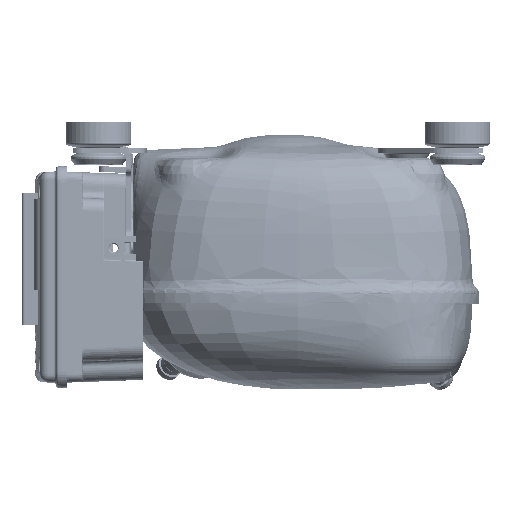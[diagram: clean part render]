
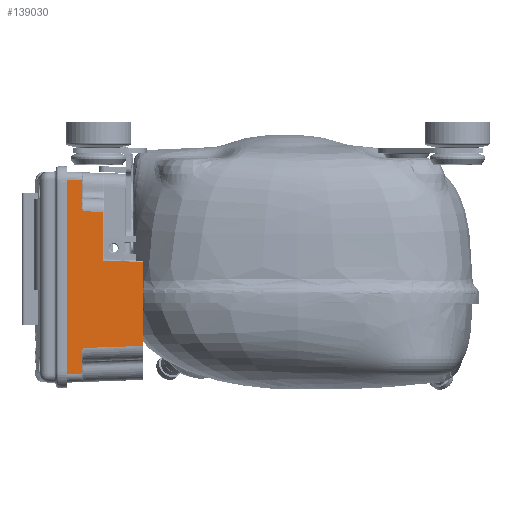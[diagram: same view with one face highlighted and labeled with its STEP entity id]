
A CAD part, top view. The second image highlights one B-rep face of the part: STEP entity #139030.
In plain terms, the highlighted planar face has unit normal (0.035, 0, 0.999) as drawn and (0.999, -0.035, 0) by its records, which use the part's own axes.
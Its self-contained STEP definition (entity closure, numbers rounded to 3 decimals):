
#97609=DIRECTION('',(0.,0.,-1.));
#97610=VECTOR('',#97609,31.822);
#97611=CARTESIAN_POINT('',(45.922,-4.855,
49.135));
#97612=LINE('',#97611,#97610);
#97810=DIRECTION('',(0.,0.,1.));
#97811=VECTOR('',#97810,73.844);
#97812=CARTESIAN_POINT('',(46.92,23.71,
-13.922));
#97813=LINE('',#97812,#97811);
#97818=DIRECTION('',(0.035,0.999,0.035));
#97819=VECTOR('',#97818,22.593);
#97820=CARTESIAN_POINT('',(45.922,-4.855,
49.135));
#97821=LINE('',#97820,#97819);
#97822=DIRECTION('',(0.035,0.999,0.035));
#97823=VECTOR('',#97822,5.524);
#97824=CARTESIAN_POINT('',(46.727,18.193,59.729));
#97825=LINE('',#97824,#97823);
#97826=DIRECTION('',(-0.035,-0.999,0.035));
#97827=VECTOR('',#97826,5.524);
#97828=CARTESIAN_POINT('',(46.92,23.71,
-13.922));
#97829=LINE('',#97828,#97827);
#97830=DIRECTION('',(-0.035,-0.999,0.034));
#97831=VECTOR('',#97830,7.69);
#97832=CARTESIAN_POINT('',(46.711,17.712,
-1.918));
#97833=LINE('',#97832,#97831);
#97834=DIRECTION('',(-0.035,-0.999,0.035));
#97835=VECTOR('',#97834,14.905);
#97836=CARTESIAN_POINT('',(46.442,10.032,16.793));
#97837=LINE('',#97836,#97835);
#97938=CARTESIAN_POINT('',(46.727,18.193,52.133));
#97939=CARTESIAN_POINT('',(46.727,18.188,51.93));
#97940=CARTESIAN_POINT('',(46.726,18.154,51.523));
#97941=CARTESIAN_POINT('',(46.721,18.01,50.893));
#97942=CARTESIAN_POINT('',(46.715,17.83,50.295));
#97943=CARTESIAN_POINT('',(46.712,17.747,50.03));
#97944=CARTESIAN_POINT('',(46.711,17.71,49.922));
#97946=DIRECTION('',(0.,0.,-1.));
#97947=VECTOR('',#97946,7.596);
#97948=CARTESIAN_POINT('',(46.727,18.193,59.729));
#97949=LINE('',#97948,#97947);
#98022=DIRECTION('',(0.,0.,-1.));
#98023=VECTOR('',#98022,9.596);
#98024=CARTESIAN_POINT('',(46.727,18.193,
-4.133));
#98025=LINE('',#98024,#98023);
#98026=CARTESIAN_POINT('',(46.711,17.712,
-1.918));
#98027=CARTESIAN_POINT('',(46.714,17.814,
-2.228));
#98028=CARTESIAN_POINT('',(46.72,17.986,
-2.804));
#98029=CARTESIAN_POINT('',(46.726,18.148,
-3.48));
#98030=CARTESIAN_POINT('',(46.727,18.189,
-3.923));
#98031=CARTESIAN_POINT('',(46.727,18.193,
-4.133));
#117172=DIRECTION('',(0.,0.,-1.));
#117173=VECTOR('',#117172,18.448);
#117174=CARTESIAN_POINT('',(46.442,10.032,
16.793));
#117175=LINE('',#117174,#117173);
#125189=CARTESIAN_POINT('',(46.727,18.193,
-4.133));
#125190=VERTEX_POINT('',#125189);
#125191=CARTESIAN_POINT('',(46.727,18.193,
-13.729));
#125192=VERTEX_POINT('',#125191);
#125193=VERTEX_POINT('',#98026);
#125194=CARTESIAN_POINT('',(45.922,-4.855,
49.135));
#125195=CARTESIAN_POINT('',(45.923,-4.855,
17.313));
#125196=VERTEX_POINT('',#125194);
#125197=VERTEX_POINT('',#125195);
#125198=CARTESIAN_POINT('',(46.711,17.71,
49.922));
#125199=VERTEX_POINT('',#125198);
#125200=VERTEX_POINT('',#97938);
#125201=CARTESIAN_POINT('',(46.727,18.193,
59.729));
#125202=VERTEX_POINT('',#125201);
#125203=CARTESIAN_POINT('',(46.92,23.71,
59.922));
#125204=VERTEX_POINT('',#125203);
#125205=CARTESIAN_POINT('',(46.92,23.71,
-13.922));
#125206=VERTEX_POINT('',#125205);
#125207=CARTESIAN_POINT('',(46.442,10.032,
-1.655));
#125208=VERTEX_POINT('',#125207);
#125209=CARTESIAN_POINT('',(46.442,10.032,
16.793));
#125210=VERTEX_POINT('',#125209);
#139002=CARTESIAN_POINT('',(47.,26.,65.522));
#139003=DIRECTION('',(0.999,-0.035,0.));
#139004=DIRECTION('',(0.,0.,-1.));
#139005=AXIS2_PLACEMENT_3D('',#139002,#139003,#139004);
#139006=PLANE('',#139005);
#139007=ORIENTED_EDGE('',*,*,#138618,.F.);
#139009=ORIENTED_EDGE('',*,*,#139008,.T.);
#139011=ORIENTED_EDGE('',*,*,#139010,.F.);
#139013=ORIENTED_EDGE('',*,*,#139012,.F.);
#139014=ORIENTED_EDGE('',*,*,#138934,.T.);
#139015=ORIENTED_EDGE('',*,*,#138993,.F.);
#139017=ORIENTED_EDGE('',*,*,#139016,.T.);
#139019=ORIENTED_EDGE('',*,*,#139018,.F.);
#139021=ORIENTED_EDGE('',*,*,#139020,.F.);
#139023=ORIENTED_EDGE('',*,*,#139022,.T.);
#139025=ORIENTED_EDGE('',*,*,#139024,.F.);
#139027=ORIENTED_EDGE('',*,*,#139026,.T.);
#139028=EDGE_LOOP('',(#139007,#139009,#139011,#139013,#139014,#139015,#139017,
#139019,#139021,#139023,#139025,#139027));
#139029=FACE_OUTER_BOUND('',#139028,.F.);
#139030=ADVANCED_FACE('',(#139029),#139006,.T.);
#97945=B_SPLINE_CURVE_WITH_KNOTS('',3,(#97938,#97939,#97940,#97941,#97942,
#97943,#97944),.UNSPECIFIED.,.F.,.F.,(4,1,1,1,4),(0.,0.25,0.5,0.75,
1.),.UNSPECIFIED.);
#98032=B_SPLINE_CURVE_WITH_KNOTS('',3,(#98026,#98027,#98028,#98029,#98030,
#98031),.UNSPECIFIED.,.F.,.F.,(4,1,1,4),(0.,0.333,
0.667,1.),.UNSPECIFIED.);
#138618=EDGE_CURVE('',#125196,#125197,#97612,.T.);
#138934=EDGE_CURVE('',#125202,#125204,#97825,.T.);
#138993=EDGE_CURVE('',#125206,#125204,#97813,.T.);
#139008=EDGE_CURVE('',#125196,#125199,#97821,.T.);
#139010=EDGE_CURVE('',#125200,#125199,#97945,.T.);
#139012=EDGE_CURVE('',#125202,#125200,#97949,.T.);
#139016=EDGE_CURVE('',#125206,#125192,#97829,.T.);
#139018=EDGE_CURVE('',#125190,#125192,#98025,.T.);
#139020=EDGE_CURVE('',#125193,#125190,#98032,.T.);
#139022=EDGE_CURVE('',#125193,#125208,#97833,.T.);
#139024=EDGE_CURVE('',#125210,#125208,#117175,.T.);
#139026=EDGE_CURVE('',#125210,#125197,#97837,.T.);
